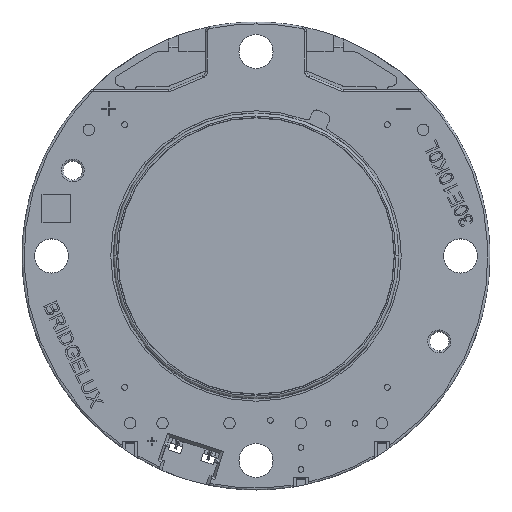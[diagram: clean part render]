
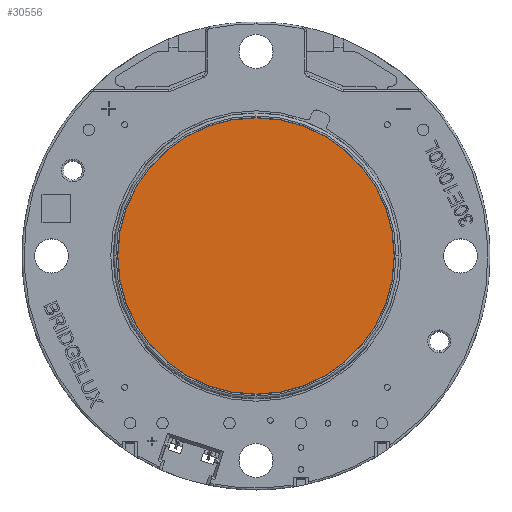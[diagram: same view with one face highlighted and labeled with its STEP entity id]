
A CAD part, top view. The second image highlights one B-rep face of the part: STEP entity #30556.
In plain terms, the highlighted planar face has unit normal (0, 0, 1).
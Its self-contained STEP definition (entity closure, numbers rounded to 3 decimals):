
#1301 = CIRCLE ( 'NONE', #49157, 14.525 ) ;
#2246 = EDGE_LOOP ( 'NONE', ( #35810, #34804 ) ) ;
#3388 = CARTESIAN_POINT ( 'NONE',  ( 14.525, 0., 1.7 ) ) ;
#6834 = VERTEX_POINT ( 'NONE', #52154 ) ;
#12267 = CARTESIAN_POINT ( 'NONE',  ( 0., 0., 1.7 ) ) ;
#14043 = VERTEX_POINT ( 'NONE', #3388 ) ;
#15207 = CARTESIAN_POINT ( 'NONE',  ( 0., 0., 1.7 ) ) ;
#16420 = DIRECTION ( 'NONE',  ( 1., 0., 0. ) ) ;
#19369 = DIRECTION ( 'NONE',  ( 1., 0., 0. ) ) ;
#24623 = DIRECTION ( 'NONE',  ( 0., 0., 1. ) ) ;
#26363 = AXIS2_PLACEMENT_3D ( 'NONE', #12267, #41304, #16420 ) ;
#26813 = AXIS2_PLACEMENT_3D ( 'NONE', #49438, #24623, #53576 ) ;
#27324 = EDGE_CURVE ( 'NONE', #14043, #6834, #47840, .T. ) ;
#30249 = FACE_OUTER_BOUND ( 'NONE', #2246, .T. ) ;
#30556 = ADVANCED_FACE ( 'NONE', ( #30249 ), #52807, .T. ) ;
#34804 = ORIENTED_EDGE ( 'NONE', *, *, #27324, .T. ) ;
#35810 = ORIENTED_EDGE ( 'NONE', *, *, #40878, .T. ) ;
#40878 = EDGE_CURVE ( 'NONE', #6834, #14043, #1301, .T. ) ;
#41304 = DIRECTION ( 'NONE',  ( 0., 0., 1. ) ) ;
#44234 = DIRECTION ( 'NONE',  ( 0., 0., 1. ) ) ;
#47840 = CIRCLE ( 'NONE', #26813, 14.525 ) ;
#49157 = AXIS2_PLACEMENT_3D ( 'NONE', #15207, #44234, #19369 ) ;
#49438 = CARTESIAN_POINT ( 'NONE',  ( 0., 0., 1.7 ) ) ;
#52154 = CARTESIAN_POINT ( 'NONE',  ( -14.525, 0., 1.7 ) ) ;
#52807 = PLANE ( 'NONE',  #26363 ) ;
#53576 = DIRECTION ( 'NONE',  ( 1., 0., 0. ) ) ;
